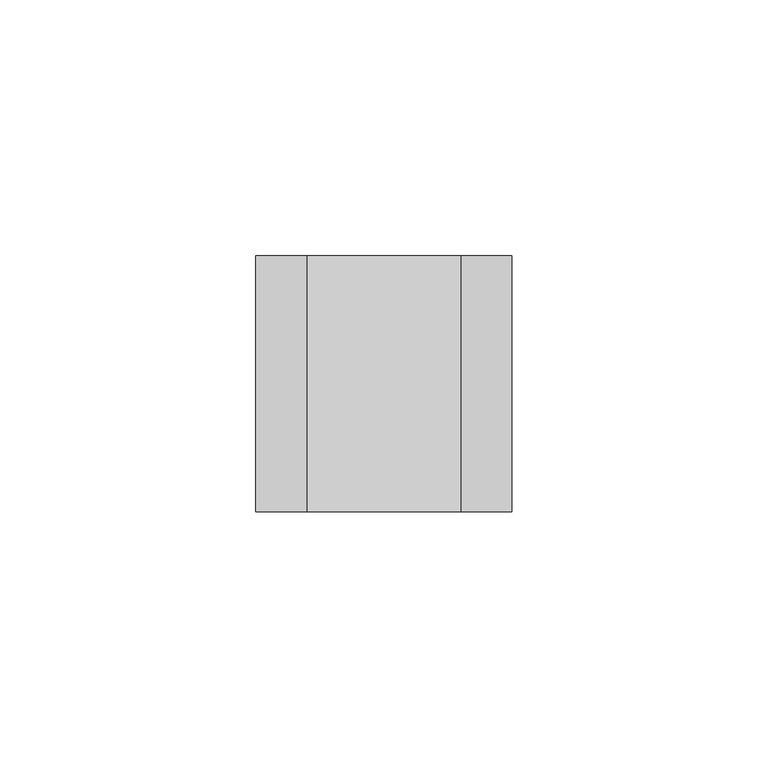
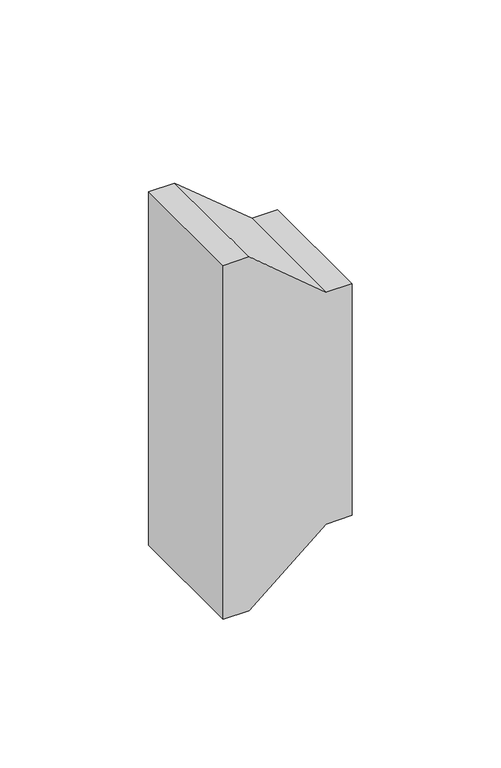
"""IFC4 building model written with IfcOpenShell, lengths in millimetres: duct fitting geometry, КНС_Переход_DKC : Переход."""

from ifc_helpers import new_model, si_unit, frame, origin, place, context, project, spatial, polyline, outline, extrude, source, transform, mapped, element, save


def duct_fitting_89612ab8(model_context):
    return source(origin(), model_context, "Body", "SweptSolid", [
        extrude(outline(polyline([(47.5, 50.1665888), (72.5, 20.1665888), (72.5, 10.1665888), (-72.5, 10.1665888), (-72.5, 20.1665888), (-47.5, 50.1665888), (-47.5, 60.1665888), (47.5, 60.1665888), (47.5, 50.1665888)])), frame((0.0, -40.0757244, 0.0), z_axis=(0.0, 1.0, 0.0), x_axis=(0.0, 0.0, 1.0)), (0.0, 0.0, 1.0), 50.0),
    ])


if __name__ == "__main__":
    model = new_model("IFC4")
    model_context = context("Model", 3, world=origin())
    ifc_project = project(units=[si_unit("LENGTHUNIT", "METRE", prefix="MILLI")], contexts=[model_context])
    site = spatial("IfcSite", under=ifc_project)
    building = spatial("IfcBuilding", under=site)
    placement = place(None, origin())
    duct_fitting_shape = duct_fitting_89612ab8(model_context)
    element("IfcDuctFitting", 1, ObjectType="КНС_Переход_DKC : Переход", at=placement, inside=building, context=model_context, shape_type="MappedRepresentation", body=[
        mapped(duct_fitting_shape, transform((0.0, 0.0, 0.0), x_axis=(1.0, 0.0, 0.0), y_axis=(0.0, 1.0, 0.0), z_axis=(0.0, 0.0, 1.0))),
    ])
    save(model, "model.ifc")
